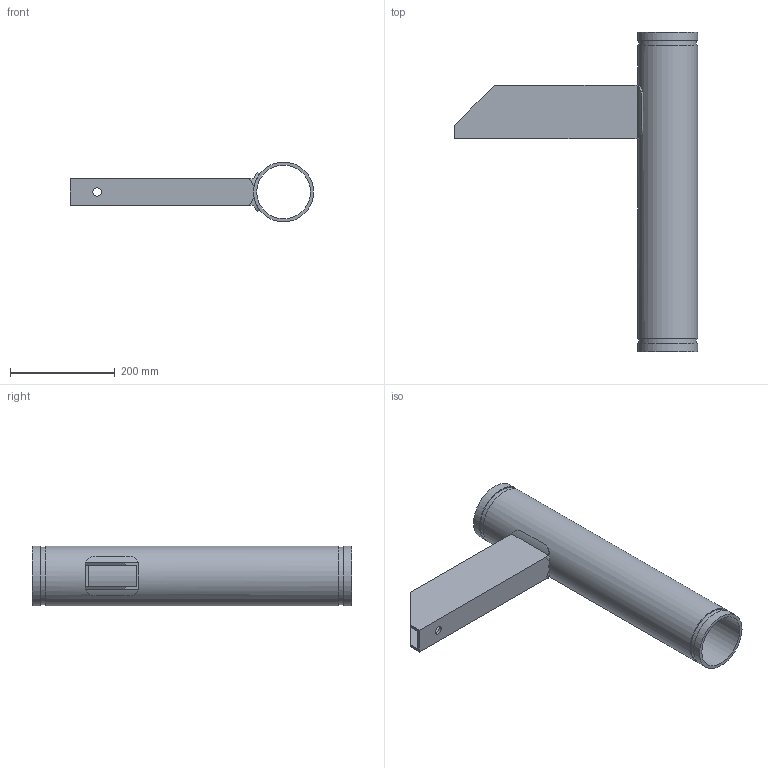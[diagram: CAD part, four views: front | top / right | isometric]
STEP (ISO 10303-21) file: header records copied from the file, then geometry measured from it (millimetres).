
FILE_DESCRIPTION(/* description */ ('VIC SS FLOOR MOUNTED RISER ANCHOR No A40S'),/* implementation_level */ '2;1');
FILE_NAME(/* name */ 'C:\Files for Export\A40 & A40S-STEP-SWX\STEP\Victaulic_SS-OGS_Riser Anchor_No A40S (OGS)\Victaulic_SS-OGS_Riser Anchor_No A40S (OGS)_4 (100).stp',/* time_stamp */ '2024-06-07T07:36:57+02:00',/* author */ ('kkamble'),/* organization */ ('Victaulic'),/* preprocessor_version */ 'ST-DEVELOPER v18.1',/* originating_system */ 'Autodesk Inventor 2020',/* authorisation */ '');
FILE_SCHEMA (('AUTOMOTIVE_DESIGN { 1 0 10303 214 3 1 1 }'));
Length unit declared in the file: inch
Products named in the file (1): A40S-04.0
Bounding box: 463.55 x 609.6 x 114.3 mm (x, y, z)
Volume: 1717768.9 mm3; surface area: 604651.9 mm2
Topology: 1 solids, 1 shells, 34 faces, 94 edges, 66 vertices
Faces by surface type: plane 20, cylinder 14
Full cylindrical faces by diameter (mm): 15.875 x1, 102.362 x1, 110.084 x2, 114.3 x3
Entity records: 1279 total; most frequent: CARTESIAN_POINT 291, DIRECTION 192, ORIENTED_EDGE 188, EDGE_CURVE 94, AXIS2_PLACEMENT_3D 71, VERTEX_POINT 66, LINE 50, VECTOR 50
